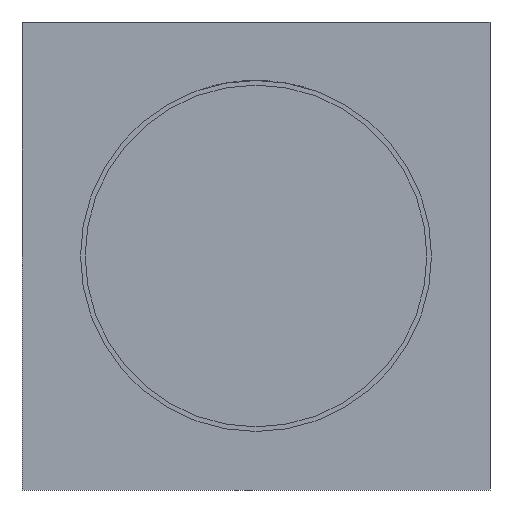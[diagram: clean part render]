
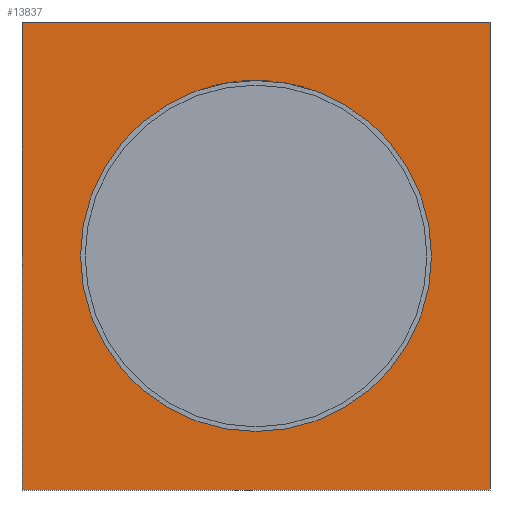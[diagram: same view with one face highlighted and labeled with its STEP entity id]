
A CAD part, front view. The second image highlights one B-rep face of the part: STEP entity #13837.
In plain terms, the highlighted planar face has unit normal (0, -1, 0).
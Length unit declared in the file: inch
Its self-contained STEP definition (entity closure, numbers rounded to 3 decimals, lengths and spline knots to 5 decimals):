
#13541=CARTESIAN_POINT('',(-3.,5.83,0.0));
#13542=VERTEX_POINT('',#13541);
#13543=CARTESIAN_POINT('',(0.0,5.83,0.0));
#13544=DIRECTION('',(0.0,1.0,0.0));
#13545=DIRECTION('',(-1.0,0.0,0.0));
#13546=AXIS2_PLACEMENT_3D('',#13543,#13544,#13545);
#13547=CIRCLE('',#13546,3.);
#13548=EDGE_CURVE('',#13542,#13542,#13547,.T.);
#13670=CARTESIAN_POINT('',(4.,5.83,-4.));
#13671=VERTEX_POINT('',#13670);
#13672=CARTESIAN_POINT('',(-4.0,5.83,-4.));
#13673=VERTEX_POINT('',#13672);
#13674=CARTESIAN_POINT('',(4.,5.83,-4.));
#13675=DIRECTION('',(-1.0,0.0,0.0));
#13676=VECTOR('',#13675,8.0);
#13677=LINE('',#13674,#13676);
#13678=EDGE_CURVE('',#13671,#13673,#13677,.T.);
#13710=CARTESIAN_POINT('',(-4.,5.83,4.));
#13711=VERTEX_POINT('',#13710);
#13712=CARTESIAN_POINT('',(-4.0,5.83,-4.));
#13713=DIRECTION('',(0.0,0.0,1.0));
#13714=VECTOR('',#13713,8.);
#13715=LINE('',#13712,#13714);
#13716=EDGE_CURVE('',#13673,#13711,#13715,.T.);
#13741=CARTESIAN_POINT('',(4.,5.83,4.));
#13742=VERTEX_POINT('',#13741);
#13743=CARTESIAN_POINT('',(-4.,5.83,4.));
#13744=DIRECTION('',(1.0,0.0,0.0));
#13745=VECTOR('',#13744,8.);
#13746=LINE('',#13743,#13745);
#13747=EDGE_CURVE('',#13711,#13742,#13746,.T.);
#13772=CARTESIAN_POINT('',(4.,5.83,4.));
#13773=DIRECTION('',(0.0,0.0,-1.0));
#13774=VECTOR('',#13773,8.);
#13775=LINE('',#13772,#13774);
#13776=EDGE_CURVE('',#13742,#13671,#13775,.T.);
#13823=CARTESIAN_POINT('',(-3.5,5.83,0.0));
#13824=DIRECTION('',(0.0,-1.0,0.0));
#13825=DIRECTION('',(0.0,0.0,-1.0));
#13826=AXIS2_PLACEMENT_3D('',#13823,#13824,#13825);
#13827=PLANE('',#13826);
#13828=ORIENTED_EDGE('',*,*,#13716,.F.);
#13829=ORIENTED_EDGE('',*,*,#13678,.F.);
#13830=ORIENTED_EDGE('',*,*,#13776,.F.);
#13831=ORIENTED_EDGE('',*,*,#13747,.F.);
#13832=EDGE_LOOP('',(#13828,#13829,#13830,#13831));
#13833=FACE_OUTER_BOUND('',#13832,.T.);
#13834=ORIENTED_EDGE('',*,*,#13548,.T.);
#13835=EDGE_LOOP('',(#13834));
#13836=FACE_BOUND('',#13835,.T.);
#13837=ADVANCED_FACE('',(#13833,#13836),#13827,.T.);
